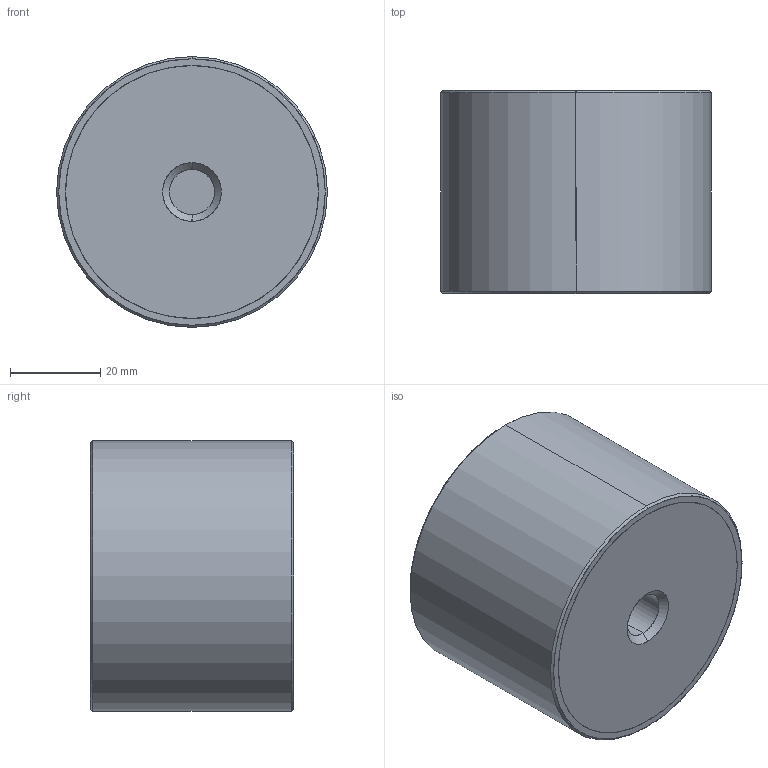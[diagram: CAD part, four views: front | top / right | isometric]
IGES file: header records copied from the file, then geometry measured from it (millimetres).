
Start section: SolidWorks IGES file using analytic representation for surfaces
Global section: file name: E:\WIXROYD 20180701\61080_v2\61080_v2_20180409_IGES\61080.W0602.igs; native system: SolidWorks 2017; preprocessor: SolidWorks 2017; author: liam_; date: 180716.214549; units: millimetre
Bounding box: 60 x 45 x 60 mm (x, y, z)
Surface area: 25198.5 mm2 (no closed solid volume)
Topology: 0 solids, 0 shells, 32 faces, 984 edges, 984 vertices
Faces by surface type: revolution 22, bspline 10
